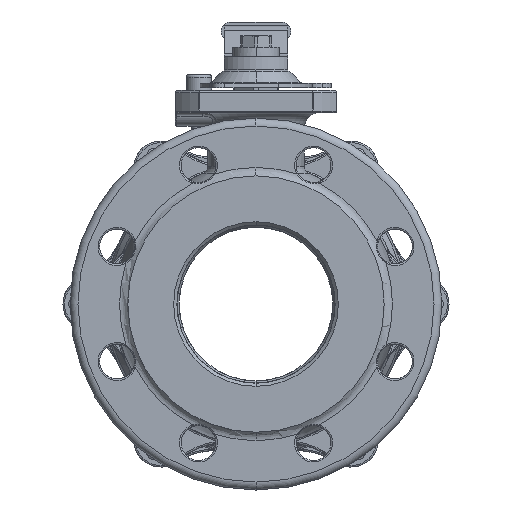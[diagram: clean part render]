
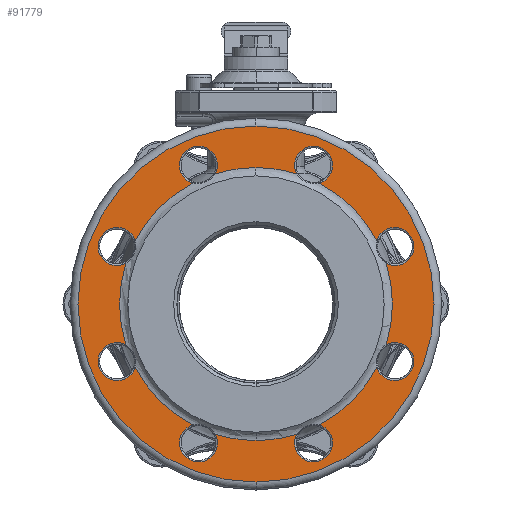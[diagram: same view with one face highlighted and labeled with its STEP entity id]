
A CAD part, left-side view. The second image highlights one B-rep face of the part: STEP entity #91779.
In plain terms, the highlighted planar face has unit normal (-1, 0, 0).
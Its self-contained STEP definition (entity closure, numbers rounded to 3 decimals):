
#18619=CARTESIAN_POINT('',(-72.,0.,0.));
#18620=DIRECTION('',(1.,0.,0.));
#18621=DIRECTION('',(0.,0.,1.));
#18622=AXIS2_PLACEMENT_3D('',#18619,#18620,#18621);
#18634=CARTESIAN_POINT('',(-72.,0.,0.));
#18635=DIRECTION('',(1.,0.,0.));
#18636=DIRECTION('',(0.,0.,-1.));
#18637=AXIS2_PLACEMENT_3D('',#18634,#18635,#18636);
#18652=CARTESIAN_POINT('',(-72.,0.,0.));
#18653=DIRECTION('',(1.,0.,0.));
#18654=DIRECTION('',(0.,0.955,-0.298));
#18655=AXIS2_PLACEMENT_3D('',#18652,#18653,#18654);
#18657=CARTESIAN_POINT('',(-72.,0.,0.));
#18658=DIRECTION('',(1.,0.,0.));
#18659=DIRECTION('',(0.,0.464,-0.886));
#18660=AXIS2_PLACEMENT_3D('',#18657,#18658,#18659);
#18662=CARTESIAN_POINT('',(-72.,0.,0.));
#18663=DIRECTION('',(1.,0.,0.));
#18664=DIRECTION('',(0.,0.,-1.));
#18665=AXIS2_PLACEMENT_3D('',#18662,#18663,#18664);
#18667=CARTESIAN_POINT('',(-72.,0.,0.));
#18668=DIRECTION('',(-1.,0.,0.));
#18669=DIRECTION('',(0.,0.,-1.));
#18670=AXIS2_PLACEMENT_3D('',#18667,#18668,#18669);
#18672=CARTESIAN_POINT('',(-72.,0.,0.));
#18673=DIRECTION('',(-1.,0.,0.));
#18674=DIRECTION('',(0.,-0.464,-0.886));
#18675=AXIS2_PLACEMENT_3D('',#18672,#18673,#18674);
#18677=CARTESIAN_POINT('',(-72.,0.,0.));
#18678=DIRECTION('',(-1.,0.,0.));
#18679=DIRECTION('',(0.,-0.955,-0.298));
#18680=AXIS2_PLACEMENT_3D('',#18677,#18678,#18679);
#18682=CARTESIAN_POINT('',(-72.,0.,0.));
#18683=DIRECTION('',(-1.,0.,0.));
#18684=DIRECTION('',(0.,-0.886,0.464));
#18685=AXIS2_PLACEMENT_3D('',#18682,#18683,#18684);
#18687=CARTESIAN_POINT('',(-72.,0.,0.));
#18688=DIRECTION('',(-1.,0.,0.));
#18689=DIRECTION('',(0.,-0.298,0.955));
#18690=AXIS2_PLACEMENT_3D('',#18687,#18688,#18689);
#18692=CARTESIAN_POINT('',(-72.,0.,0.));
#18693=DIRECTION('',(1.,0.,0.));
#18694=DIRECTION('',(0.,0.298,0.955));
#18695=AXIS2_PLACEMENT_3D('',#18692,#18693,#18694);
#18697=CARTESIAN_POINT('',(-72.,0.,0.));
#18698=DIRECTION('',(1.,0.,0.));
#18699=DIRECTION('',(0.,0.886,0.464));
#18700=AXIS2_PLACEMENT_3D('',#18697,#18698,#18699);
#18702=CARTESIAN_POINT('',(-72.,87.769,36.355));
#18703=DIRECTION('',(1.,0.,0.));
#18704=DIRECTION('',(0.,-0.457,-0.889));
#18705=AXIS2_PLACEMENT_3D('',#18702,#18703,#18704);
#18868=CARTESIAN_POINT('',(-72.,-36.355,87.769));
#18869=DIRECTION('',(1.,0.,0.));
#18870=DIRECTION('',(0.,0.889,-0.457));
#18871=AXIS2_PLACEMENT_3D('',#18868,#18869,#18870);
#18961=CARTESIAN_POINT('',(-72.,-87.769,36.355));
#18962=DIRECTION('',(1.,0.,0.));
#18963=DIRECTION('',(0.,0.952,0.305));
#18964=AXIS2_PLACEMENT_3D('',#18961,#18962,#18963);
#19159=CARTESIAN_POINT('',(-72.,-87.769,-36.355));
#19160=DIRECTION('',(1.,0.,0.));
#19161=DIRECTION('',(0.,0.457,0.889));
#19162=AXIS2_PLACEMENT_3D('',#19159,#19160,#19161);
#19333=CARTESIAN_POINT('',(-72.,-36.355,-87.769));
#19334=DIRECTION('',(1.,0.,0.));
#19335=DIRECTION('',(0.,-0.305,0.952));
#19336=AXIS2_PLACEMENT_3D('',#19333,#19334,#19335);
#19482=CARTESIAN_POINT('',(-72.,36.355,-87.769));
#19483=DIRECTION('',(1.,0.,0.));
#19484=DIRECTION('',(0.,-0.889,0.457));
#19485=AXIS2_PLACEMENT_3D('',#19482,#19483,#19484);
#19575=CARTESIAN_POINT('',(-72.,87.769,-36.355));
#19576=DIRECTION('',(1.,0.,0.));
#19577=DIRECTION('',(0.,-0.952,-0.305));
#19578=AXIS2_PLACEMENT_3D('',#19575,#19576,#19577);
#19897=CARTESIAN_POINT('',(-72.,36.355,87.769));
#19898=DIRECTION('',(1.,0.,0.));
#19899=DIRECTION('',(0.,0.305,-0.952));
#19900=AXIS2_PLACEMENT_3D('',#19897,#19898,#19899);
#51995=CARTESIAN_POINT('',(-72.,0.,-112.5));
#51996=CARTESIAN_POINT('',(-72.,0.,112.5));
#51997=VERTEX_POINT('',#51995);
#51998=VERTEX_POINT('',#51996);
#52135=CARTESIAN_POINT('',(-72.,82.281,25.683));
#52136=VERTEX_POINT('',#52135);
#52137=CARTESIAN_POINT('',(-72.,40.021,76.342));
#52138=VERTEX_POINT('',#52137);
#52139=CARTESIAN_POINT('',(-72.,-25.683,82.281));
#52140=VERTEX_POINT('',#52139);
#52141=CARTESIAN_POINT('',(-72.,-76.342,40.021));
#52142=VERTEX_POINT('',#52141);
#52143=CARTESIAN_POINT('',(-72.,-82.281,-25.683));
#52144=VERTEX_POINT('',#52143);
#52145=CARTESIAN_POINT('',(-72.,-40.021,-76.342));
#52146=VERTEX_POINT('',#52145);
#52147=CARTESIAN_POINT('',(-72.,25.683,-82.281));
#52148=VERTEX_POINT('',#52147);
#52149=CARTESIAN_POINT('',(-72.,76.342,-40.021));
#52150=VERTEX_POINT('',#52149);
#52151=CARTESIAN_POINT('',(-72.,76.342,40.021));
#52152=VERTEX_POINT('',#52151);
#52153=CARTESIAN_POINT('',(-72.,25.683,82.281));
#52154=VERTEX_POINT('',#52153);
#52155=CARTESIAN_POINT('',(-72.,-40.021,76.342));
#52156=VERTEX_POINT('',#52155);
#52157=CARTESIAN_POINT('',(-72.,-82.281,25.683));
#52158=VERTEX_POINT('',#52157);
#52159=CARTESIAN_POINT('',(-72.,-76.342,-40.021));
#52160=VERTEX_POINT('',#52159);
#52161=CARTESIAN_POINT('',(-72.,-25.683,-82.281));
#52162=VERTEX_POINT('',#52161);
#52163=CARTESIAN_POINT('',(-72.,40.021,-76.342));
#52164=VERTEX_POINT('',#52163);
#52165=CARTESIAN_POINT('',(-72.,82.281,-25.683));
#52166=VERTEX_POINT('',#52165);
#53071=CARTESIAN_POINT('',(-72.,0.,86.196));
#53072=VERTEX_POINT('',#53071);
#53073=CARTESIAN_POINT('',(-72.,0.,-86.196));
#53074=VERTEX_POINT('',#53073);
#91732=CARTESIAN_POINT('',(-72.,0.,0.));
#91733=DIRECTION('',(-1.,0.,0.));
#91734=DIRECTION('',(0.,0.,1.));
#91735=AXIS2_PLACEMENT_3D('',#91732,#91733,#91734);
#91736=PLANE('',#91735);
#91737=ORIENTED_EDGE('',*,*,#91714,.T.);
#91738=ORIENTED_EDGE('',*,*,#91699,.T.);
#91739=EDGE_LOOP('',(#91737,#91738));
#91740=FACE_OUTER_BOUND('',#91739,.F.);
#91742=ORIENTED_EDGE('',*,*,#91741,.F.);
#91744=ORIENTED_EDGE('',*,*,#91743,.F.);
#91746=ORIENTED_EDGE('',*,*,#91745,.F.);
#91748=ORIENTED_EDGE('',*,*,#91747,.F.);
#91750=ORIENTED_EDGE('',*,*,#91749,.F.);
#91752=ORIENTED_EDGE('',*,*,#91751,.F.);
#91754=ORIENTED_EDGE('',*,*,#91753,.T.);
#91756=ORIENTED_EDGE('',*,*,#91755,.F.);
#91758=ORIENTED_EDGE('',*,*,#91757,.T.);
#91760=ORIENTED_EDGE('',*,*,#91759,.F.);
#91762=ORIENTED_EDGE('',*,*,#91761,.T.);
#91764=ORIENTED_EDGE('',*,*,#91763,.F.);
#91766=ORIENTED_EDGE('',*,*,#91765,.T.);
#91768=ORIENTED_EDGE('',*,*,#91767,.F.);
#91770=ORIENTED_EDGE('',*,*,#91769,.T.);
#91772=ORIENTED_EDGE('',*,*,#91771,.F.);
#91774=ORIENTED_EDGE('',*,*,#91773,.F.);
#91776=ORIENTED_EDGE('',*,*,#91775,.F.);
#91777=EDGE_LOOP('',(#91742,#91744,#91746,#91748,#91750,#91752,#91754,#91756,
#91758,#91760,#91762,#91764,#91766,#91768,#91770,#91772,#91774,#91776));
#91778=FACE_BOUND('',#91777,.F.);
#91779=ADVANCED_FACE('',(#91740,#91778),#91736,.T.);
#18623=CIRCLE('',#18622,112.5);
#18638=CIRCLE('',#18637,112.5);
#18656=CIRCLE('',#18655,86.196);
#18661=CIRCLE('',#18660,86.196);
#18666=CIRCLE('',#18665,86.196);
#18671=CIRCLE('',#18670,86.196);
#18676=CIRCLE('',#18675,86.196);
#18681=CIRCLE('',#18680,86.196);
#18686=CIRCLE('',#18685,86.196);
#18691=CIRCLE('',#18690,86.196);
#18696=CIRCLE('',#18695,86.196);
#18701=CIRCLE('',#18700,86.196);
#18706=CIRCLE('',#18705,12.);
#18872=CIRCLE('',#18871,12.);
#18965=CIRCLE('',#18964,12.);
#19163=CIRCLE('',#19162,12.);
#19337=CIRCLE('',#19336,12.);
#19486=CIRCLE('',#19485,12.);
#19579=CIRCLE('',#19578,12.);
#19901=CIRCLE('',#19900,12.);
#91699=EDGE_CURVE('',#51998,#51997,#18623,.T.);
#91714=EDGE_CURVE('',#51997,#51998,#18638,.T.);
#91741=EDGE_CURVE('',#52136,#52152,#18706,.T.);
#91743=EDGE_CURVE('',#52166,#52136,#18656,.T.);
#91745=EDGE_CURVE('',#52150,#52166,#19579,.T.);
#91747=EDGE_CURVE('',#52164,#52150,#18661,.T.);
#91749=EDGE_CURVE('',#52148,#52164,#19486,.T.);
#91751=EDGE_CURVE('',#53074,#52148,#18666,.T.);
#91753=EDGE_CURVE('',#53074,#52162,#18671,.T.);
#91755=EDGE_CURVE('',#52146,#52162,#19337,.T.);
#91757=EDGE_CURVE('',#52146,#52160,#18676,.T.);
#91759=EDGE_CURVE('',#52144,#52160,#19163,.T.);
#91761=EDGE_CURVE('',#52144,#52158,#18681,.T.);
#91763=EDGE_CURVE('',#52142,#52158,#18965,.T.);
#91765=EDGE_CURVE('',#52142,#52156,#18686,.T.);
#91767=EDGE_CURVE('',#52140,#52156,#18872,.T.);
#91769=EDGE_CURVE('',#52140,#53072,#18691,.T.);
#91771=EDGE_CURVE('',#52154,#53072,#18696,.T.);
#91773=EDGE_CURVE('',#52138,#52154,#19901,.T.);
#91775=EDGE_CURVE('',#52152,#52138,#18701,.T.);
